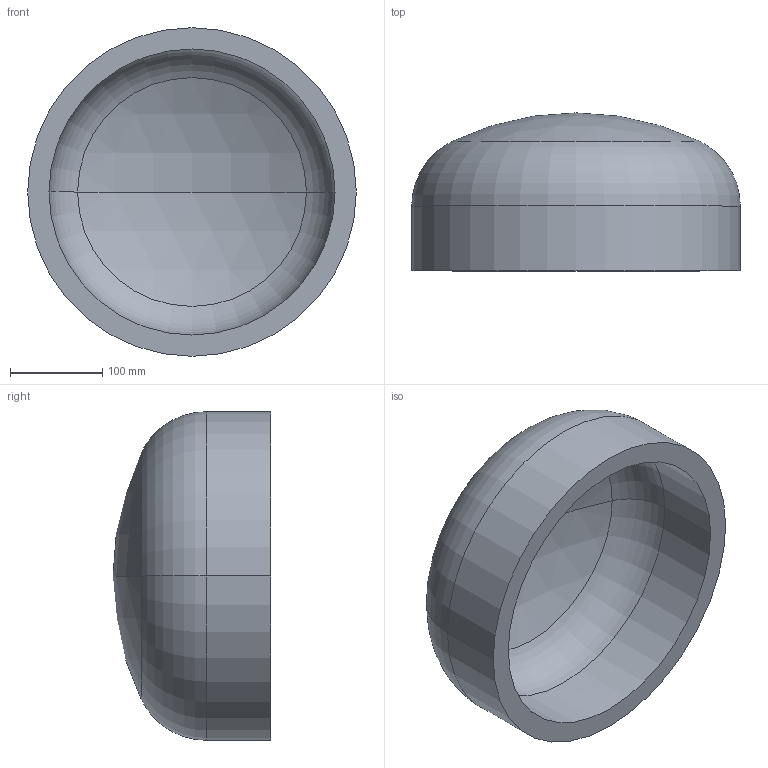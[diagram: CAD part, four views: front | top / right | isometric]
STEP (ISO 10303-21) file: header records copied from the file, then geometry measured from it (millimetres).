
FILE_DESCRIPTION (( 'STEP AP203' ), '1' );
FILE_NAME ('DIN 28013 Korbbogenform_-_Boden DIN 28013 - 355,6 x 70 - I - s=23.step', '2016-07-01T07:47:02', ( '' ), ( '' ), 'SwSTEP 2.0', 'SolidWorks 2013', '' );
FILE_SCHEMA (( 'CONFIG_CONTROL_DESIGN' ));
Length unit declared in the file: millimetre
Products named in the file (1): DIN 28013 Korbbogenform_-_Boden DIN 28013 - 355,6 x 70 - I - s=23
Bounding box: 355.6 x 170.89 x 355.6 mm (x, y, z)
Volume: 4599280.9 mm3; surface area: 425077.9 mm2
Topology: 1 solids, 1 shells, 13 faces, 24 edges, 14 vertices
Faces by surface type: torus 4, cylinder 4, sphere 4, plane 1
Entity records: 407 total; most frequent: DIRECTION 72, CARTESIAN_POINT 52, ORIENTED_EDGE 48, AXIS2_PLACEMENT_3D 34, EDGE_CURVE 24, CIRCLE 20, EDGE_LOOP 14, VERTEX_POINT 14
